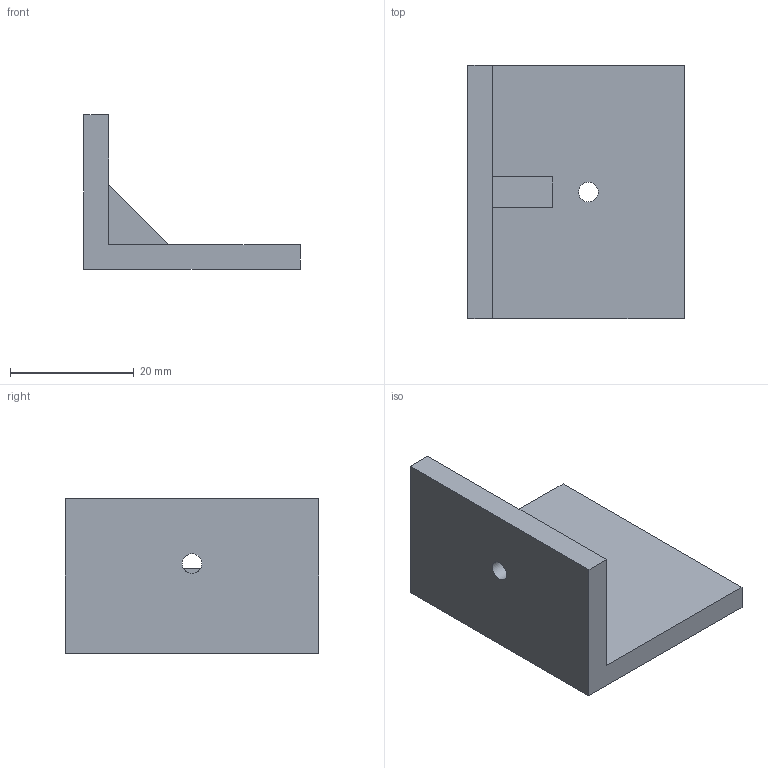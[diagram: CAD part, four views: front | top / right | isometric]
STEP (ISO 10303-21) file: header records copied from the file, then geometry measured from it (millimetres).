
FILE_DESCRIPTION(('Mechanical CAD reference from nasji.com'),'2;1');
FILE_NAME('NASJI.step','',(''),(''),'','NASJI distribution','');
FILE_SCHEMA(('AUTOMOTIVE_DESIGN { 1 0 10303 214 1 1 1 1 }'));
Length unit declared in the file: millimetre
Products named in the file (1): Open CASCADE STEP translator 7.8 170
Bounding box: 35 x 40.94 x 25 mm (x, y, z)
Volume: 9339.1 mm3; surface area: 5479.6 mm2
Topology: 1 solids, 1 shells, 14 faces, 37 edges, 24 vertices
Faces by surface type: plane 12, cylinder 2
Full cylindrical faces by diameter (mm): 3.2 x2
Entity records: 935 total; most frequent: CARTESIAN_POINT 172, DIRECTION 140, LINE 95, VECTOR 95, ORIENTED_EDGE 74, PCURVE 74, DEFINITIONAL_REPRESENTATION 74, EDGE_CURVE 37
